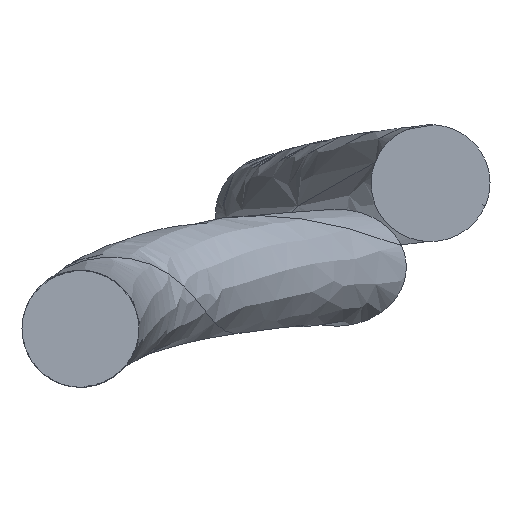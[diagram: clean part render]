
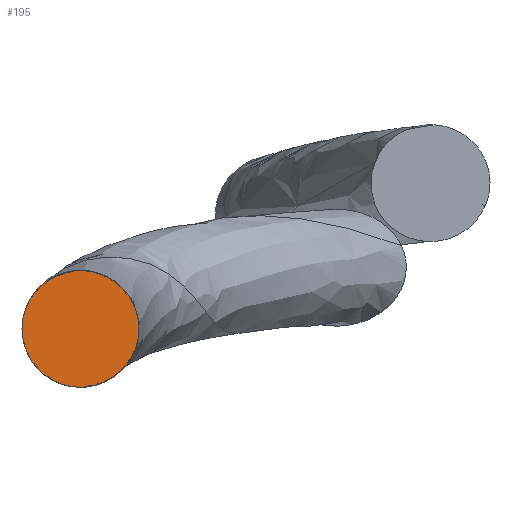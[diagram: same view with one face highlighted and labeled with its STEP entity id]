
A CAD part, top view. The second image highlights one B-rep face of the part: STEP entity #195.
In plain terms, the highlighted planar face has unit normal (0, 0, 1).
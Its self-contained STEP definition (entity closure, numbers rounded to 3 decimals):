
#111 = CARTESIAN_POINT ( 'NONE',  ( 334.532, 7.815, 2220. ) ) ;
#112 = EDGE_LOOP ( 'NONE', ( #1405, #425 ) ) ;
#195 = ADVANCED_FACE ( 'NONE', ( #2097 ), #1520, .T. ) ;
#425 = ORIENTED_EDGE ( 'NONE', *, *, #1454, .F. ) ;
#468 = AXIS2_PLACEMENT_3D ( 'NONE', #798, #824, #1631 ) ;
#491 =( BOUNDED_CURVE ( )  B_SPLINE_CURVE ( 3, ( #1225, #563, #1213, #1863 ),
 .UNSPECIFIED., .F., .T. ) 
 B_SPLINE_CURVE_WITH_KNOTS ( ( 4, 4 ),
 ( 0., 0.052 ),
 .UNSPECIFIED. ) 
 CURVE ( )  GEOMETRIC_REPRESENTATION_ITEM ( )  RATIONAL_B_SPLINE_CURVE ( ( 0.997, 0.332, 0.332, 0.997 ) ) 
 REPRESENTATION_ITEM ( '' )  );
#563 = CARTESIAN_POINT ( 'NONE',  ( 289.854, 21.244, 2220. ) ) ;
#694 = EDGE_CURVE ( 'NONE', #1266, #1189, #491, .T. ) ;
#752 = CARTESIAN_POINT ( 'NONE',  ( 321.085, -36.879, 2220. ) ) ;
#798 = CARTESIAN_POINT ( 'NONE',  ( 0., 0., 2220. ) ) ;
#824 = DIRECTION ( 'NONE',  ( 0., 0., 1. ) ) ;
#1047 = CARTESIAN_POINT ( 'NONE',  ( 334.534, 7.811, 2220. ) ) ;
#1189 = VERTEX_POINT ( 'NONE', #111 ) ;
#1213 = CARTESIAN_POINT ( 'NONE',  ( 318.905, 36.874, 2220. ) ) ;
#1225 = CARTESIAN_POINT ( 'NONE',  ( 305.465, -7.81, 2220. ) ) ;
#1232 = CARTESIAN_POINT ( 'NONE',  ( 334.533, 7.813, 2220. ) ) ;
#1266 = VERTEX_POINT ( 'NONE', #1882 ) ;
#1383 = CARTESIAN_POINT ( 'NONE',  ( 334.535, 7.81, 2220. ) ) ;
#1404 = CARTESIAN_POINT ( 'NONE',  ( 305.465, -7.81, 2220. ) ) ;
#1405 = ORIENTED_EDGE ( 'NONE', *, *, #694, .F. ) ;
#1415 = CARTESIAN_POINT ( 'NONE',  ( 350.154, -21.26, 2220. ) ) ;
#1454 = EDGE_CURVE ( 'NONE', #1189, #1266, #1785, .T. ) ;
#1520 = PLANE ( 'NONE',  #468 ) ;
#1631 = DIRECTION ( 'NONE',  ( 0., -1., 0. ) ) ;
#1785 =( BOUNDED_CURVE ( )  B_SPLINE_CURVE ( 3, ( #2032, #1232, #1047, #1383, #1415, #752, #1404 ),
 .UNSPECIFIED., .F., .F. ) 
 B_SPLINE_CURVE_WITH_KNOTS ( ( 4, 3, 4 ),
 ( 0.052, 0.052, 0.103 ),
 .UNSPECIFIED. ) 
 CURVE ( )  GEOMETRIC_REPRESENTATION_ITEM ( )  RATIONAL_B_SPLINE_CURVE ( ( 0.997, 0.997, 0.997, 0.997, 0.332, 0.332, 0.997 ) ) 
 REPRESENTATION_ITEM ( '' )  );
#1863 = CARTESIAN_POINT ( 'NONE',  ( 334.532, 7.815, 2220. ) ) ;
#1882 = CARTESIAN_POINT ( 'NONE',  ( 305.465, -7.81, 2220. ) ) ;
#2032 = CARTESIAN_POINT ( 'NONE',  ( 334.532, 7.815, 2220. ) ) ;
#2097 = FACE_OUTER_BOUND ( 'NONE', #112, .T. ) ;
